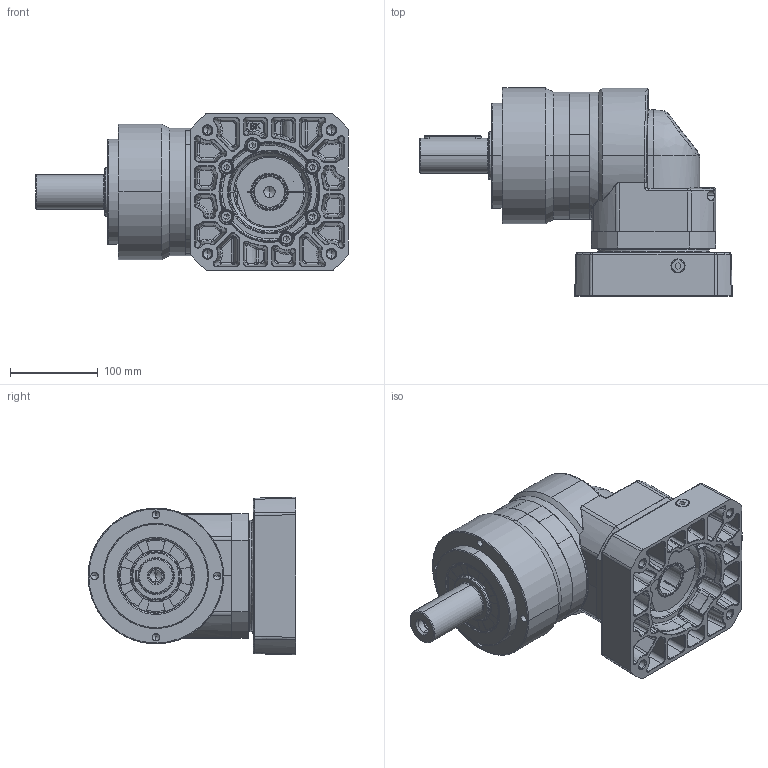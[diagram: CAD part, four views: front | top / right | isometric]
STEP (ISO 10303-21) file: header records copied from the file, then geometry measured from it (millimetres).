
FILE_DESCRIPTION (( 'STEP AP214' ), '1' );
FILE_NAME ('EVT155-L1-S2-P1 35-114.3-200-M12-82.STEP', '2025-02-14T08:34:44', ( '微软用户' ), ( '微软中国' ), 'SwSTEP 2.0', 'SolidWorks 2021', '' );
FILE_SCHEMA (( 'AUTOMOTIVE_DESIGN' ));
Length unit declared in the file: millimetre
Products named in the file (4): EVT155-L1-S2-P1 35-114.3-200-M12-82; VRL155D-L1-S2-35-114.3-200-M12-82.STEP; EVT140D-L1-2-110-145-M8-72.STEP; 20-EVT140F_________stp.stp.STEP
Assembly tree (9 placements, depth 2):
  EVT155-L1-S2-P1 35-114.3-200-M12-82
    VRL155D-L1-S2-35-114.3-200-M12-82.STEP
    20-EVT140F_________stp.stp.STEP
    EVT140D-L1-2-110-145-M8-72.STEP  x7
Bounding box: 357 x 237.5 x 180 mm (x, y, z)
Volume: 1098420.2 mm3; surface area: 636421.7 mm2
Topology: 1 solids, 37 shells, 2049 faces, 4980 edges, 3052 vertices
Faces by surface type: bspline 862, cylinder 531, plane 352, cone 302, torus 2
Entity records: 144528 total; most frequent: CARTESIAN_POINT 106654, ORIENTED_EDGE 9055, DIRECTION 5789, EDGE_CURVE 4560, VERTEX_POINT 2818, AXIS2_PLACEMENT_3D 2253, EDGE_LOOP 2095, FACE_OUTER_BOUND 1899
